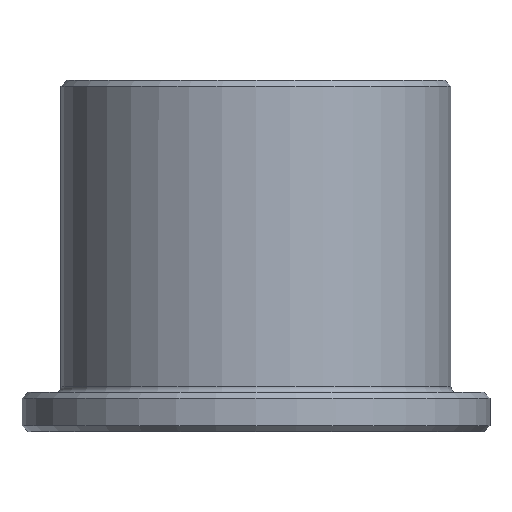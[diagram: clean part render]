
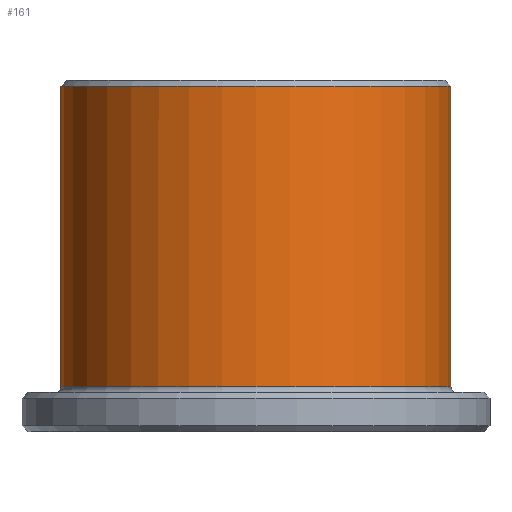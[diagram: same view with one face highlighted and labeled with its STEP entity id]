
A CAD part, front view. The second image highlights one B-rep face of the part: STEP entity #161.
In plain terms, the highlighted cylindrical face has radius 10 mm (diameter 20 mm), a partial arc.
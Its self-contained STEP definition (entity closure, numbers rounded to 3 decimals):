
#3 = DIRECTION ( 'NONE',  ( 0., 0., -1. ) ) ;
#4 = CARTESIAN_POINT ( 'NONE',  ( -10., 0., -15.7 ) ) ;
#22 = EDGE_CURVE ( 'NONE', #159, #31, #506, .T. ) ;
#30 = VECTOR ( 'NONE', #415, 1000. ) ;
#31 = VERTEX_POINT ( 'NONE', #354 ) ;
#50 = CARTESIAN_POINT ( 'NONE',  ( 10., 0., -0.3 ) ) ;
#62 = DIRECTION ( 'NONE',  ( 0., 0., 1. ) ) ;
#91 = CARTESIAN_POINT ( 'NONE',  ( 0., 0., -15.7 ) ) ;
#103 = CIRCLE ( 'NONE', #527, 10. ) ;
#111 = EDGE_CURVE ( 'NONE', #434, #31, #589, .T. ) ;
#129 = ORIENTED_EDGE ( 'NONE', *, *, #292, .T. ) ;
#132 = AXIS2_PLACEMENT_3D ( 'NONE', #593, #565, #514 ) ;
#147 = DIRECTION ( 'NONE',  ( 1., 0., 0. ) ) ;
#159 = VERTEX_POINT ( 'NONE', #50 ) ;
#161 = ADVANCED_FACE ( 'NONE', ( #409 ), #316, .T. ) ;
#176 = VERTEX_POINT ( 'NONE', #338 ) ;
#193 = LINE ( 'NONE', #373, #30 ) ;
#239 = DIRECTION ( 'NONE',  ( 0., 0., 1. ) ) ;
#292 = EDGE_CURVE ( 'NONE', #176, #159, #193, .T. ) ;
#301 = EDGE_CURVE ( 'NONE', #434, #176, #103, .T. ) ;
#306 = AXIS2_PLACEMENT_3D ( 'NONE', #386, #3, #147 ) ;
#316 = CYLINDRICAL_SURFACE ( 'NONE', #132, 10. ) ;
#331 = ORIENTED_EDGE ( 'NONE', *, *, #111, .F. ) ;
#338 = CARTESIAN_POINT ( 'NONE',  ( 10., 0., -15.7 ) ) ;
#354 = CARTESIAN_POINT ( 'NONE',  ( -10., 0., -0.3 ) ) ;
#373 = CARTESIAN_POINT ( 'NONE',  ( 10., 0., 0. ) ) ;
#385 = DIRECTION ( 'NONE',  ( 1., 0., 0. ) ) ;
#386 = CARTESIAN_POINT ( 'NONE',  ( 0., 0., -0.3 ) ) ;
#409 = FACE_OUTER_BOUND ( 'NONE', #586, .T. ) ;
#415 = DIRECTION ( 'NONE',  ( 0., 0., 1. ) ) ;
#434 = VERTEX_POINT ( 'NONE', #4 ) ;
#490 = VECTOR ( 'NONE', #239, 1000. ) ;
#498 = CARTESIAN_POINT ( 'NONE',  ( -10., 0., 0. ) ) ;
#506 = CIRCLE ( 'NONE', #306, 10. ) ;
#514 = DIRECTION ( 'NONE',  ( 1., 0., 0. ) ) ;
#527 = AXIS2_PLACEMENT_3D ( 'NONE', #91, #62, #385 ) ;
#565 = DIRECTION ( 'NONE',  ( 0., 0., 1. ) ) ;
#573 = ORIENTED_EDGE ( 'NONE', *, *, #301, .T. ) ;
#585 = ORIENTED_EDGE ( 'NONE', *, *, #22, .T. ) ;
#586 = EDGE_LOOP ( 'NONE', ( #331, #573, #129, #585 ) ) ;
#589 = LINE ( 'NONE', #498, #490 ) ;
#593 = CARTESIAN_POINT ( 'NONE',  ( 0., 0., 0. ) ) ;
